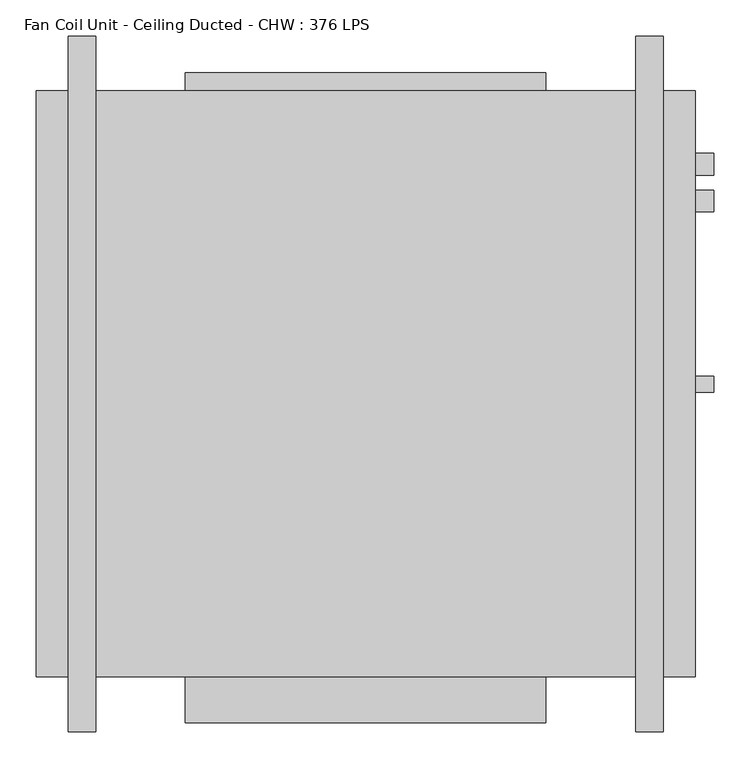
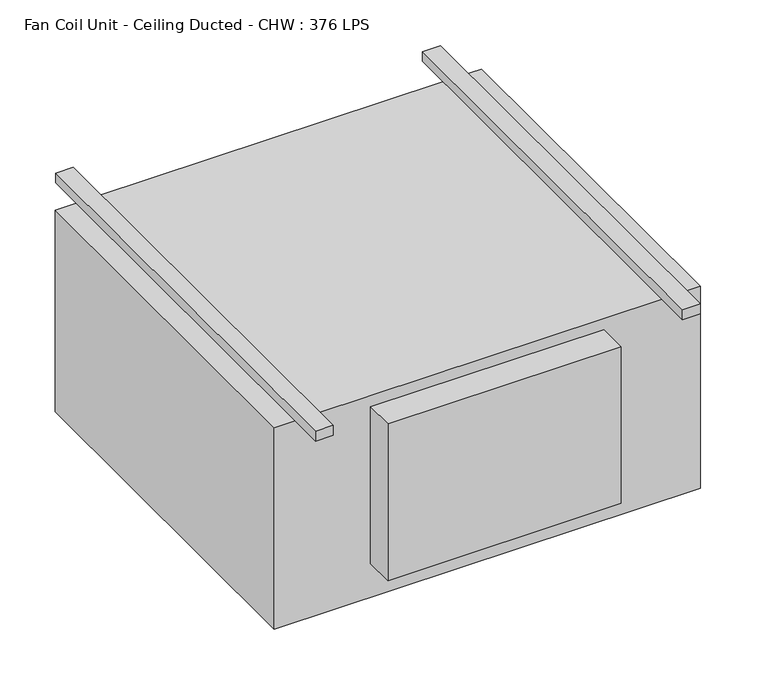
"""IFC4 building model written with IfcOpenShell, lengths in millimetres: proxy geometry, Fan Coil Unit - Ceiling Ducted - CHW : 376 LPS."""

from ifc_helpers import new_model, si_unit, frame, origin, place, context, project, spatial, circle_curve, source, transform, mapped, element, save
from ifc_brep_helpers import plane_surface, cylinder_surface, advanced_brep


def fan_coil_unit_ceiling_ducted_chw_376_lps_05d42c19(model_context):
    return source(origin(), model_context, "Body", "AdvancedBrep", [
        advanced_brep(
        [(82.55, -889.0, 479.425), (82.55, 76.2, 479.425), (44.45, 76.2, 479.425), (44.45, -889.0, 479.425), (82.55, 76.2, 457.2), (82.55, 0.0, 457.2), (44.45, 0.0, 457.2), (44.45, 76.2, 457.2), (44.45, -889.0, 457.2), (44.45, -812.8, 457.2), (82.55, -812.8, 457.2), (82.55, -889.0, 457.2), (869.95, -889.0, 479.425), (869.95, 76.2, 479.425), (831.85, 76.2, 479.425), (831.85, -889.0, 479.425), (869.95, 76.2, 457.2), (869.95, 0.0, 457.2), (831.85, 0.0, 457.2), (831.85, 76.2, 457.2), (831.85, -889.0, 457.2), (831.85, -812.8, 457.2), (869.95, -812.8, 457.2), (869.95, -889.0, 457.2), (939.8, -137.4, 381.0), (939.8, -167.4, 381.0), (914.4, -167.4, 381.0), (914.4, -137.4, 381.0), (939.8, -86.6, 101.6), (939.8, -116.6, 101.6), (914.4, -116.6, 101.6), (914.4, -86.6, 101.6), (939.8, -395.2875, 38.1), (939.8, -417.5125, 38.1), (914.4, -417.5125, 38.1), (914.4, -395.2875, 38.1), (0.0, -812.8, 457.2), (0.0, 0.0, 457.2), (914.4, 0.0, 457.2), (914.4, -812.8, 457.2), (914.4, -812.8, 0.0), (0.0, -812.8, 0.0), (0.0, 0.0, 0.0), (914.4, 0.0, 0.0), (707.2, -812.8, 431.8), (707.2, -812.8, 76.2), (207.2, -812.8, 76.2), (207.2, -812.8, 431.8), (207.2, 0.0, 431.8), (207.2, 0.0, 76.2), (707.2, 0.0, 76.2), (707.2, 0.0, 431.8), (707.2, -876.3, 431.8), (207.2, -876.3, 431.8), (707.2, -876.3, 76.2), (207.2, -876.3, 76.2), (707.2, 25.4, 431.8), (207.2, 25.4, 431.8), (207.2, 25.4, 76.2), (707.2, 25.4, 76.2)],
        [
            (0, 1),
            (1, 2),
            (2, 3),
            (3, 0),
            (4, 5),
            (5, 6),
            (6, 7),
            (7, 4),
            (8, 9),
            (9, 10),
            (10, 11),
            (11, 8),
            (3, 8),
            (11, 0),
            (2, 7),
            (6, 9),
            (1, 4),
            (10, 5),
            (12, 13),
            (13, 14),
            (14, 15),
            (15, 12),
            (16, 17),
            (17, 18),
            (18, 19),
            (19, 16),
            (20, 21),
            (21, 22),
            (22, 23),
            (23, 20),
            (15, 20),
            (23, 12),
            (14, 19),
            (18, 21),
            (13, 16),
            (22, 17),
            (24, 25, circle_curve(frame((939.8, -152.4, 381.0), z_axis=(1.0, 0.0, 0.0), x_axis=(0.0, -1.0, 0.0)), 15.0)),
            (25, 24, circle_curve(frame((939.8, -152.4, 381.0), z_axis=(1.0, 0.0, 0.0), x_axis=(0.0, -1.0, 0.0)), 15.0)),
            (25, 26),
            (26, 27, circle_curve(frame((914.4, -152.4, 381.0), z_axis=(1.0, 0.0, 0.0), x_axis=(0.0, -1.0, 0.0)), 15.0)),
            (27, 24),
            (27, 26, circle_curve(frame((914.4, -152.4, 381.0), z_axis=(1.0, 0.0, 0.0), x_axis=(0.0, -1.0, 0.0)), 15.0)),
            (28, 29, circle_curve(frame((939.8, -101.6, 101.6), z_axis=(1.0, 0.0, 0.0), x_axis=(0.0, -1.0, 0.0)), 15.0)),
            (29, 28, circle_curve(frame((939.8, -101.6, 101.6), z_axis=(1.0, 0.0, 0.0), x_axis=(0.0, -1.0, 0.0)), 15.0)),
            (29, 30),
            (30, 31, circle_curve(frame((914.4, -101.6, 101.6), z_axis=(1.0, 0.0, 0.0), x_axis=(0.0, -1.0, 0.0)), 15.0)),
            (31, 28),
            (31, 30, circle_curve(frame((914.4, -101.6, 101.6), z_axis=(1.0, 0.0, 0.0), x_axis=(0.0, -1.0, 0.0)), 15.0)),
            (32, 33, circle_curve(frame((939.8, -406.4, 38.1), z_axis=(1.0, 0.0, 0.0), x_axis=(0.0, -1.0, 0.0)), 11.1125)),
            (33, 32, circle_curve(frame((939.8, -406.4, 38.1), z_axis=(1.0, 0.0, 0.0), x_axis=(0.0, -1.0, 0.0)), 11.1125)),
            (33, 34),
            (34, 35, circle_curve(frame((914.4, -406.4, 38.1), z_axis=(1.0, 0.0, 0.0), x_axis=(0.0, -1.0, 0.0)), 11.1125)),
            (35, 32),
            (35, 34, circle_curve(frame((914.4, -406.4, 38.1), z_axis=(1.0, 0.0, 0.0), x_axis=(0.0, -1.0, 0.0)), 11.1125)),
            (18, 5),
            (10, 21),
            (36, 9),
            (6, 37),
            (37, 36),
            (38, 17),
            (22, 39),
            (39, 38),
            (40, 41),
            (41, 42),
            (42, 43),
            (43, 40),
            (40, 39),
            (36, 41),
            (44, 45),
            (45, 46),
            (46, 47),
            (47, 44),
            (37, 42),
            (38, 43),
            (48, 49),
            (49, 50),
            (50, 51),
            (51, 48),
            (52, 44),
            (47, 53),
            (53, 52),
            (54, 55),
            (55, 46),
            (45, 54),
            (53, 55),
            (54, 52),
            (51, 56),
            (56, 57),
            (57, 48),
            (49, 58),
            (58, 59),
            (59, 50),
            (57, 58),
            (56, 59),
        ],
        [
            plane_surface(frame((44.45, -889.0, 479.425), z_axis=(0.0, 0.0, 1.0), x_axis=(-1.0, 0.0, 0.0))),
            plane_surface(frame((44.45, -889.0, 457.2), z_axis=(0.0, 0.0, -1.0), x_axis=(1.0, 0.0, 0.0))),
            plane_surface(frame((82.55, -889.0, 479.425), z_axis=(0.0, -1.0, 0.0), x_axis=(0.0, 0.0, -1.0))),
            plane_surface(frame((44.45, -889.0, 479.425), z_axis=(-1.0, 0.0, 0.0), x_axis=(0.0, 0.0, -1.0))),
            plane_surface(frame((44.45, 76.2, 479.425), z_axis=(0.0, 1.0, 0.0), x_axis=(0.0, 0.0, -1.0))),
            plane_surface(frame((82.55, 76.2, 479.425), z_axis=(1.0, 0.0, 0.0), x_axis=(0.0, 0.0, -1.0))),
            plane_surface(frame((831.85, -889.0, 479.425), z_axis=(0.0, 0.0, 1.0), x_axis=(-1.0, 0.0, 0.0))),
            plane_surface(frame((831.85, -889.0, 457.2), z_axis=(0.0, 0.0, -1.0), x_axis=(1.0, 0.0, 0.0))),
            plane_surface(frame((869.95, -889.0, 479.425), z_axis=(0.0, -1.0, 0.0), x_axis=(0.0, 0.0, -1.0))),
            plane_surface(frame((831.85, -889.0, 479.425), z_axis=(-1.0, 0.0, 0.0), x_axis=(0.0, 0.0, -1.0))),
            plane_surface(frame((831.85, 76.2, 479.425), z_axis=(0.0, 1.0, 0.0), x_axis=(0.0, 0.0, -1.0))),
            plane_surface(frame((869.95, 76.2, 479.425), z_axis=(1.0, 0.0, 0.0), x_axis=(0.0, 0.0, -1.0))),
            plane_surface(frame((939.8, -167.4, 381.0), z_axis=(1.0, 0.0, 0.0), x_axis=(0.0, 0.0, 1.0))),
            cylinder_surface(frame((914.4, -152.4, 381.0), z_axis=(1.0, 0.0, 0.0), x_axis=(0.0, -1.0, 0.0)), 15.0),
            plane_surface(frame((939.8, -116.6, 101.6), z_axis=(1.0, 0.0, 0.0), x_axis=(0.0, 0.0, 1.0))),
            cylinder_surface(frame((914.4, -101.6, 101.6), z_axis=(1.0, 0.0, 0.0), x_axis=(0.0, -1.0, 0.0)), 15.0),
            plane_surface(frame((939.8, -417.5125, 38.1), z_axis=(1.0, 0.0, 0.0), x_axis=(0.0, 0.0, 1.0))),
            cylinder_surface(frame((914.4, -406.4, 38.1), z_axis=(1.0, 0.0, 0.0), x_axis=(0.0, -1.0, 0.0)), 11.1125),
            plane_surface(frame((0.0, -812.8, 457.2), z_axis=(0.0, 0.0, 1.0), x_axis=(-1.0, 0.0, 0.0))),
            plane_surface(frame((0.0, -812.8, 0.0), z_axis=(0.0, 0.0, -1.0), x_axis=(1.0, 0.0, 0.0))),
            plane_surface(frame((914.4, -812.8, 457.2), z_axis=(0.0, -1.0, 0.0), x_axis=(0.0, 0.0, -1.0))),
            plane_surface(frame((0.0, -812.8, 457.2), z_axis=(-1.0, 0.0, 0.0), x_axis=(0.0, 0.0, -1.0))),
            plane_surface(frame((0.0, 0.0, 457.2), z_axis=(0.0, 1.0, 0.0), x_axis=(0.0, 0.0, -1.0))),
            plane_surface(frame((914.4, 0.0, 457.2), z_axis=(1.0, 0.0, 0.0), x_axis=(0.0, 0.0, -1.0))),
            plane_surface(frame((207.2, -876.3, 431.8), z_axis=(0.0, 0.0, 1.0), x_axis=(-1.0, 0.0, 0.0))),
            plane_surface(frame((207.2, -876.3, 76.2), z_axis=(0.0, 0.0, -1.0), x_axis=(1.0, 0.0, 0.0))),
            plane_surface(frame((707.2, -876.3, 431.8), z_axis=(0.0, -1.0, 0.0), x_axis=(0.0, 0.0, -1.0))),
            plane_surface(frame((207.2, -876.3, 431.8), z_axis=(-1.0, 0.0, 0.0), x_axis=(0.0, 0.0, -1.0))),
            plane_surface(frame((707.2, -812.8, 431.8), z_axis=(1.0, 0.0, 0.0), x_axis=(0.0, 0.0, -1.0))),
            plane_surface(frame((207.2, 0.0, 431.8), z_axis=(0.0, 0.0, 1.0), x_axis=(-1.0, 0.0, 0.0))),
            plane_surface(frame((207.2, 0.0, 76.2), z_axis=(0.0, 0.0, -1.0), x_axis=(1.0, 0.0, 0.0))),
            plane_surface(frame((207.2, 0.0, 431.8), z_axis=(-1.0, 0.0, 0.0), x_axis=(0.0, 0.0, -1.0))),
            plane_surface(frame((207.2, 25.4, 431.8), z_axis=(0.0, 1.0, 0.0), x_axis=(0.0, 0.0, -1.0))),
            plane_surface(frame((707.2, 25.4, 431.8), z_axis=(1.0, 0.0, 0.0), x_axis=(0.0, 0.0, -1.0))),
        ],
        [
            (0, [[1, 2, 3, 4]]),
            (1, [[5, 6, 7, 8]]),
            (1, [[9, 10, 11, 12]]),
            (2, [[13, -12, 14, -4]]),
            (3, [[15, -7, 16, -9, -13, -3]]),
            (4, [[17, -8, -15, -2]]),
            (5, [[-14, -11, 18, -5, -17, -1]]),
            (6, [[19, 20, 21, 22]]),
            (7, [[23, 24, 25, 26]]),
            (7, [[27, 28, 29, 30]]),
            (8, [[31, -30, 32, -22]]),
            (9, [[33, -25, 34, -27, -31, -21]]),
            (10, [[35, -26, -33, -20]]),
            (11, [[-32, -29, 36, -23, -35, -19]]),
            (12, [[37, 38]]),
            (13, [[39, 40, 41, -38]]),
            (13, [[-41, 42, -39, -37]]),
            (14, [[43, 44]]),
            (15, [[45, 46, 47, -44]]),
            (15, [[-47, 48, -45, -43]]),
            (16, [[49, 50]]),
            (17, [[51, 52, 53, -50]]),
            (17, [[-53, 54, -51, -49]]),
            (18, [[-34, 55, -18, 56]]),
            (18, [[57, -16, 58, 59]]),
            (18, [[60, -36, 61, 62]]),
            (19, [[63, 64, 65, 66]]),
            (20, [[67, -61, -28, -56, -10, -57, 68, -63], [69, 70, 71, 72]]),
            (21, [[73, -64, -68, -59]]),
            (22, [[-73, -58, -6, -55, -24, -60, 74, -65], [75, 76, 77, 78]]),
            (23, [[-67, -66, -74, -62], [-42, -40], [-48, -46], [-54, -52]]),
            (24, [[79, -72, 80, 81]]),
            (25, [[82, 83, -70, 84]]),
            (26, [[85, -82, 86, -81]]),
            (27, [[-71, -83, -85, -80]]),
            (28, [[-86, -84, -69, -79]]),
            (29, [[-78, 87, 88, 89]]),
            (30, [[-76, 90, 91, 92]]),
            (31, [[93, -90, -75, -89]]),
            (32, [[94, -91, -93, -88]]),
            (33, [[-77, -92, -94, -87]]),
        ],
    ),
    ])


if __name__ == "__main__":
    model = new_model("IFC4")
    model_context = context("Model", 3, world=origin())
    ifc_project = project(units=[si_unit("LENGTHUNIT", "METRE", prefix="MILLI")], contexts=[model_context])
    site = spatial("IfcSite", under=ifc_project)
    building = spatial("IfcBuilding", under=site)
    placement = place(None, origin())
    fan_coil_unit_ceiling_ducted_chw_376_lps_shape = fan_coil_unit_ceiling_ducted_chw_376_lps_05d42c19(model_context)
    element("IfcBuildingElementProxy", 1, Name="Fan Coil Unit - Ceiling Ducted - CHW : 376 LPS", ObjectType="Fan Coil Unit - Ceiling Ducted - CHW : 376 LPS", at=placement, inside=building, context=model_context, shape_type="MappedRepresentation", body=[
        mapped(fan_coil_unit_ceiling_ducted_chw_376_lps_shape, transform((0.0, 0.0, 0.0), x_axis=(1.0, 0.0, 0.0), y_axis=(0.0, 1.0, 0.0), z_axis=(0.0, 0.0, 1.0))),
    ])
    save(model, "model.ifc")
